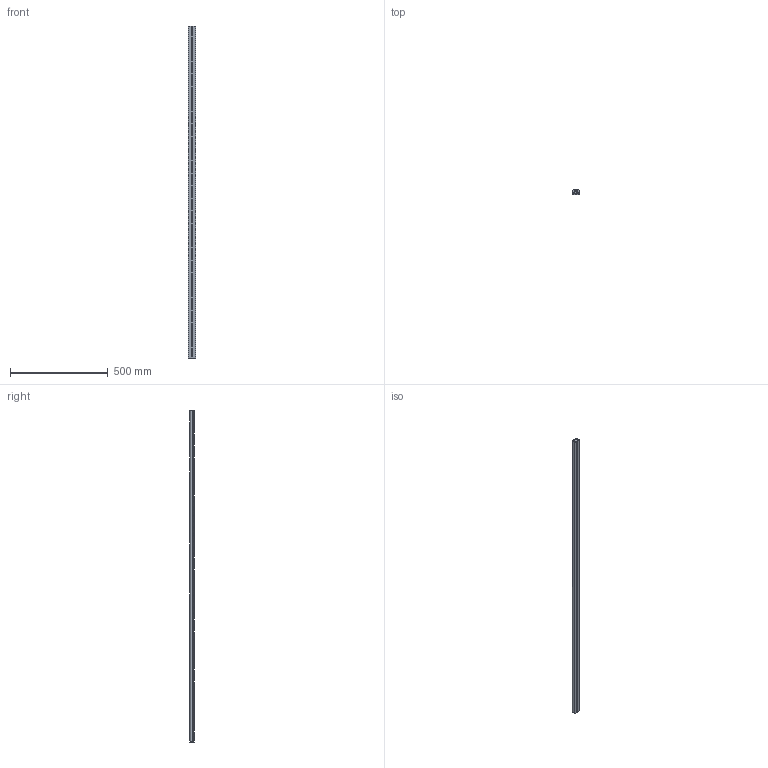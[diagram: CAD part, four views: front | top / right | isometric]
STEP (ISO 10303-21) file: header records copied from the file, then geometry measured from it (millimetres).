
FILE_DESCRIPTION (( 'STEP AP203' ), '1' );
FILE_NAME ('Linearführung_-_LFS-12-10 - L=1696.step', '2011-07-19T09:14:15', ( 'HI' ), ( '' ), 'SwSTEP 2.0', 'SolidWorks 2010', '' );
FILE_SCHEMA (( 'CONFIG_CONTROL_DESIGN' ));
Length unit declared in the file: millimetre
Products named in the file (1): Linearführung_-_LFS-12-10 - L=1696
Bounding box: 36 x 24.5 x 1696 mm (x, y, z)
Volume: 1092378.2 mm3; surface area: 419401.6 mm2
Topology: 1 solids, 1 shells, 776 faces, 2062 edges, 1350 vertices
Faces by surface type: cylinder 365, plane 275, cone 136
Entity records: 32261 total; most frequent: CARTESIAN_POINT 12685, ORIENTED_EDGE 4124, DIRECTION 3950, EDGE_CURVE 2062, AXIS2_PLACEMENT_3D 1519, VERTEX_POINT 1350, EDGE_LOOP 1050, LINE 912
